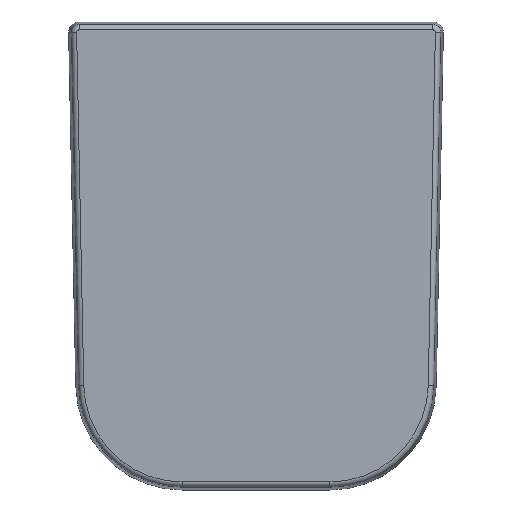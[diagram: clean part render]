
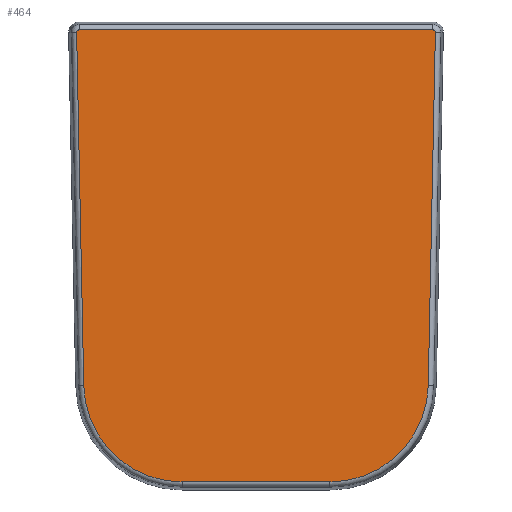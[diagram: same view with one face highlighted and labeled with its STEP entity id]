
A CAD part, top view. The second image highlights one B-rep face of the part: STEP entity #464.
In plain terms, the highlighted planar face has unit normal (0, 0, 1).
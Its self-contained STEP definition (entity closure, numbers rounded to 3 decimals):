
#23=PLANE('',#546);
#59=FACE_OUTER_BOUND('',#91,.T.);
#91=EDGE_LOOP('',(#372,#373,#374,#375,#376,#377,#378,#379));
#118=LINE('',#808,#142);
#120=LINE('',#834,#144);
#121=LINE('',#843,#145);
#122=LINE('',#849,#146);
#142=VECTOR('',#651,10.);
#144=VECTOR('',#663,10.);
#145=VECTOR('',#676,10.);
#146=VECTOR('',#685,10.);
#171=CIRCLE('',#527,2.261);
#176=CIRCLE('',#533,2.261);
#180=CIRCLE('',#539,93.261);
#183=CIRCLE('',#544,93.261);
#209=VERTEX_POINT('',#798);
#210=VERTEX_POINT('',#800);
#211=VERTEX_POINT('',#804);
#213=VERTEX_POINT('',#824);
#215=VERTEX_POINT('',#830);
#217=VERTEX_POINT('',#836);
#218=VERTEX_POINT('',#841);
#219=VERTEX_POINT('',#845);
#258=EDGE_CURVE('',#209,#210,#171,.T.);
#262=EDGE_CURVE('',#210,#211,#118,.T.);
#265=EDGE_CURVE('',#211,#213,#176,.T.);
#268=EDGE_CURVE('',#213,#215,#120,.T.);
#271=EDGE_CURVE('',#215,#217,#180,.T.);
#273=EDGE_CURVE('',#217,#218,#121,.T.);
#275=EDGE_CURVE('',#218,#219,#183,.T.);
#276=EDGE_CURVE('',#219,#209,#122,.T.);
#372=ORIENTED_EDGE('',*,*,#258,.F.);
#373=ORIENTED_EDGE('',*,*,#276,.F.);
#374=ORIENTED_EDGE('',*,*,#275,.F.);
#375=ORIENTED_EDGE('',*,*,#273,.F.);
#376=ORIENTED_EDGE('',*,*,#271,.F.);
#377=ORIENTED_EDGE('',*,*,#268,.F.);
#378=ORIENTED_EDGE('',*,*,#265,.F.);
#379=ORIENTED_EDGE('',*,*,#262,.F.);
#464=ADVANCED_FACE('',(#59),#23,.T.);
#527=AXIS2_PLACEMENT_3D('',#801,#642,#643);
#533=AXIS2_PLACEMENT_3D('',#828,#656,#657);
#539=AXIS2_PLACEMENT_3D('',#839,#670,#671);
#544=AXIS2_PLACEMENT_3D('',#847,#681,#682);
#546=AXIS2_PLACEMENT_3D('',#850,#686,#687);
#642=DIRECTION('center_axis',(0.,0.,-1.));
#643=DIRECTION('ref_axis',(-0.714,0.7,0.));
#651=DIRECTION('',(1.,0.,0.));
#656=DIRECTION('center_axis',(0.,0.,-1.));
#657=DIRECTION('ref_axis',(0.714,0.7,0.));
#663=DIRECTION('',(-0.02,-1.,0.));
#670=DIRECTION('center_axis',(0.,0.,-1.));
#671=DIRECTION('ref_axis',(0.7,-0.714,0.));
#676=DIRECTION('',(-1.,0.,0.));
#681=DIRECTION('center_axis',(0.,0.,-1.));
#682=DIRECTION('ref_axis',(-0.7,-0.714,0.));
#685=DIRECTION('',(-0.02,1.,0.));
#686=DIRECTION('center_axis',(0.,0.,1.));
#687=DIRECTION('ref_axis',(0.,-1.,0.));
#798=CARTESIAN_POINT('',(-170.056,6.454,44.));
#800=CARTESIAN_POINT('',(-167.796,8.761,44.));
#801=CARTESIAN_POINT('Origin',(-167.796,6.5,44.));
#804=CARTESIAN_POINT('',(167.796,8.761,44.));
#808=CARTESIAN_POINT('',(41.949,8.761,44.));
#824=CARTESIAN_POINT('',(170.056,6.454,44.));
#828=CARTESIAN_POINT('Origin',(167.796,6.5,44.));
#830=CARTESIAN_POINT('',(163.297,-328.382,44.));
#834=CARTESIAN_POINT('',(165.48,-220.253,44.));
#836=CARTESIAN_POINT('',(70.056,-419.761,44.));
#839=CARTESIAN_POINT('Origin',(70.056,-326.5,44.));
#841=CARTESIAN_POINT('',(-70.056,-419.761,44.));
#843=CARTESIAN_POINT('',(-17.514,-419.761,44.));
#845=CARTESIAN_POINT('',(-163.297,-328.382,44.));
#847=CARTESIAN_POINT('Origin',(-70.056,-326.5,44.));
#849=CARTESIAN_POINT('',(-167.17,-136.544,44.));
#850=CARTESIAN_POINT('Origin',(0.,-180.855,44.));
